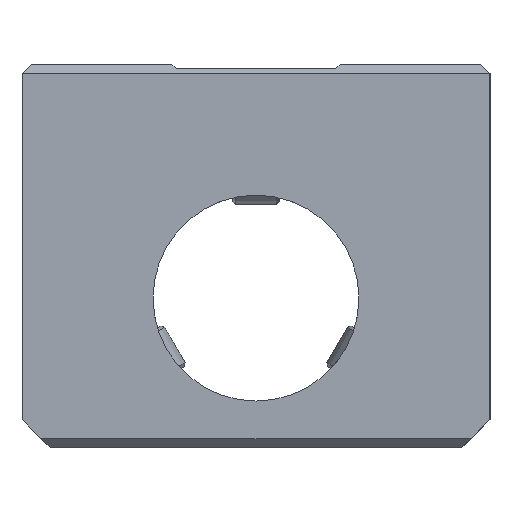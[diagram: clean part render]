
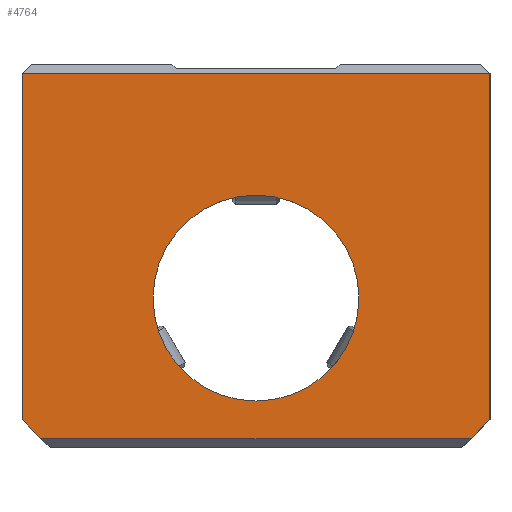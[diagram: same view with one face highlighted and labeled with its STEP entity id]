
A CAD part, left-side view. The second image highlights one B-rep face of the part: STEP entity #4764.
In plain terms, the highlighted planar face has unit normal (-1, 0, 0).
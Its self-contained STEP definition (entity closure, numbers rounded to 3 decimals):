
#3826=CARTESIAN_POINT('',(-50.0,-25.0,24.));
#3827=VERTEX_POINT('',#3826);
#3836=CARTESIAN_POINT('',(-50.0,-25.0,-13.));
#3837=VERTEX_POINT('',#3836);
#3838=CARTESIAN_POINT('',(-50.0,-25.0,24.));
#3839=DIRECTION('',(0.0,0.0,-1.0));
#3840=VECTOR('',#3839,37.);
#3841=LINE('',#3838,#3840);
#3842=EDGE_CURVE('',#3827,#3837,#3841,.T.);
#4557=CARTESIAN_POINT('',(-50.0,25.0,24.));
#4558=VERTEX_POINT('',#4557);
#4565=CARTESIAN_POINT('',(-50.0,25.0,24.));
#4566=DIRECTION('',(0.0,-1.0,0.0));
#4567=VECTOR('',#4566,50.0);
#4568=LINE('',#4565,#4567);
#4569=EDGE_CURVE('',#4558,#3827,#4568,.T.);
#4686=CARTESIAN_POINT('',(-50.0,-23.,-15.));
#4687=VERTEX_POINT('',#4686);
#4688=CARTESIAN_POINT('',(-50.0,-25.0,-13.));
#4689=DIRECTION('',(0.0,0.707,-0.707));
#4690=VECTOR('',#4689,2.828);
#4691=LINE('',#4688,#4690);
#4692=EDGE_CURVE('',#3837,#4687,#4691,.T.);
#4709=CARTESIAN_POINT('',(-50.0,23.,-15.));
#4710=VERTEX_POINT('',#4709);
#4719=CARTESIAN_POINT('',(-50.0,-23.,-15.));
#4720=DIRECTION('',(0.0,1.0,0.0));
#4721=VECTOR('',#4720,46.);
#4722=LINE('',#4719,#4721);
#4723=EDGE_CURVE('',#4687,#4710,#4722,.T.);
#4728=CARTESIAN_POINT('',(-50.0,-17.,24.75));
#4729=DIRECTION('',(1.0,0.0,0.0));
#4730=DIRECTION('',(0.0,0.0,-1.0));
#4731=AXIS2_PLACEMENT_3D('',#4728,#4729,#4730);
#4732=PLANE('',#4731);
#4733=ORIENTED_EDGE('',*,*,#4723,.F.);
#4734=ORIENTED_EDGE('',*,*,#4692,.F.);
#4735=ORIENTED_EDGE('',*,*,#3842,.F.);
#4736=ORIENTED_EDGE('',*,*,#4569,.F.);
#4737=CARTESIAN_POINT('',(-50.0,25.0,-13.));
#4738=VERTEX_POINT('',#4737);
#4739=CARTESIAN_POINT('',(-50.0,25.0,-13.));
#4740=DIRECTION('',(0.0,0.0,1.0));
#4741=VECTOR('',#4740,37.);
#4742=LINE('',#4739,#4741);
#4743=EDGE_CURVE('',#4738,#4558,#4742,.T.);
#4744=ORIENTED_EDGE('',*,*,#4743,.F.);
#4745=CARTESIAN_POINT('',(-50.0,23.,-15.));
#4746=DIRECTION('',(0.0,0.707,0.707));
#4747=VECTOR('',#4746,2.828);
#4748=LINE('',#4745,#4747);
#4749=EDGE_CURVE('',#4710,#4738,#4748,.T.);
#4750=ORIENTED_EDGE('',*,*,#4749,.F.);
#4751=EDGE_LOOP('',(#4733,#4734,#4735,#4736,#4744,#4750));
#4752=FACE_OUTER_BOUND('',#4751,.T.);
#4753=CARTESIAN_POINT('',(-50.0,11.0,0.));
#4754=VERTEX_POINT('',#4753);
#4755=CARTESIAN_POINT('',(-50.0,0.0,0.));
#4756=DIRECTION('',(1.0,0.0,0.0));
#4757=DIRECTION('',(0.0,-1.0,0.0));
#4758=AXIS2_PLACEMENT_3D('',#4755,#4756,#4757);
#4759=CIRCLE('',#4758,11.0);
#4760=EDGE_CURVE('',#4754,#4754,#4759,.T.);
#4761=ORIENTED_EDGE('',*,*,#4760,.T.);
#4762=EDGE_LOOP('',(#4761));
#4763=FACE_BOUND('',#4762,.T.);
#4764=ADVANCED_FACE('',(#4752,#4763),#4732,.F.);
